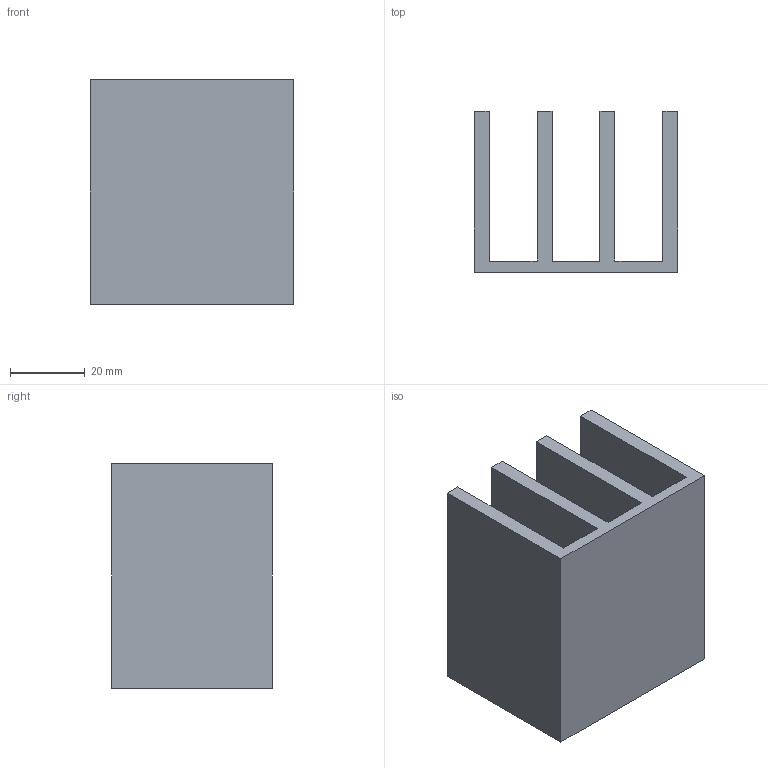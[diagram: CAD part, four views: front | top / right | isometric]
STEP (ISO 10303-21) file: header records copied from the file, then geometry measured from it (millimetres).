
FILE_DESCRIPTION(('FreeCAD Model'),'2;1');
FILE_NAME('Open CASCADE Shape Model','2022-01-26T19:48:38',('Author'),( ''),'Open CASCADE STEP processor 7.5','FreeCAD','Unknown');
FILE_SCHEMA(('AUTOMOTIVE_DESIGN { 1 0 10303 214 1 1 1 1 }'));
Length unit declared in the file: millimetre
Products named in the file (1): Pocket
Bounding box: 54.4 x 43 x 60 mm (x, y, z)
Volume: 48192 mm3; surface area: 27694.4 mm2
Topology: 1 solids, 1 shells, 18 faces, 48 edges, 32 vertices
Faces by surface type: plane 18
Entity records: 1194 total; most frequent: CARTESIAN_POINT 199, DIRECTION 178, LINE 140, VECTOR 140, ORIENTED_EDGE 96, PCURVE 96, DEFINITIONAL_REPRESENTATION 96, EDGE_CURVE 48
